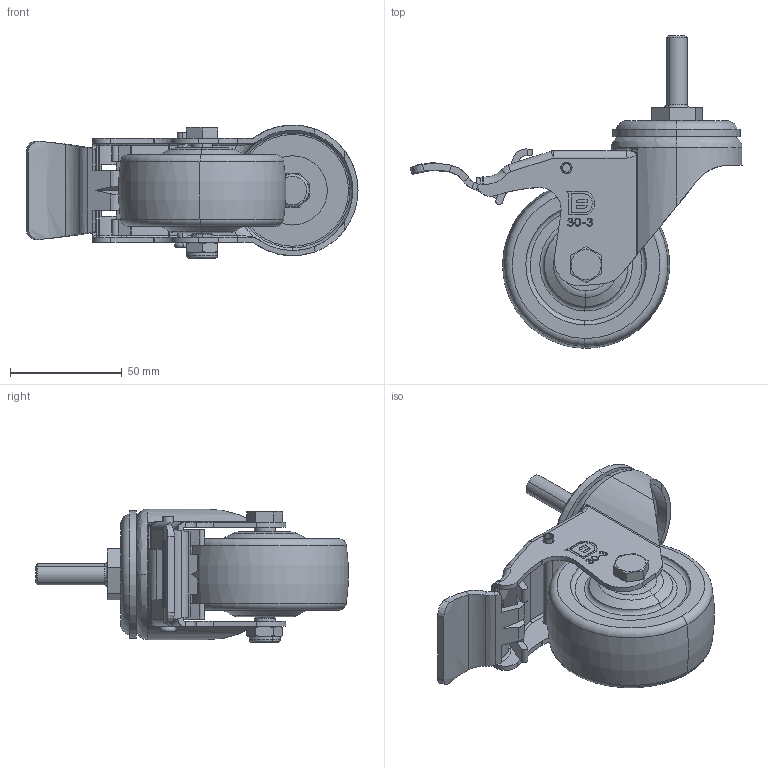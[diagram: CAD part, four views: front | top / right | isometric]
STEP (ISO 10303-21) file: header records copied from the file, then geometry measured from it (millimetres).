
FILE_DESCRIPTION (( 'STEP AP203' ), '1' );
FILE_NAME ('4113003004105-展示用.STEP', '2024-11-06T01:41:45', ( '' ), ( '' ), 'SwSTEP 2.0', 'SolidWorks 2019', '' );
FILE_SCHEMA (( 'CONFIG_CONTROL_DESIGN' ));
Length unit declared in the file: millimetre
Products named in the file (10): 412410300004 扁輪-內硬外軟(高級) 3''''(ψ7530.5-10孔-中寬38)黑 20051026; 4202095401 4''''.5''''儀器.高級活動用車心 20190430; 213014030003 30系列鐵雙煞腳-電鍍-展示用; 4502090003 尼龍螺帽 20190422; 鐵雙煞踏板0313-2.5-110; 4201044901-3''''4''''5''''儀器輪用煞車空心鉚釘(4.8x49.5L) 20210708; 245042402001 墊圈-電鍍 23x15.2x2.3t_084048; 4113003004105-展示用; 213015050002 30系列上珠碗-沖壓-展示用; 4201093202 3''''.4''''.5''''高級和4.5''''儀器架用牙心 3 8''''-16牙x32L(NEW) 20171013_133519
Assembly tree (9 placements, depth 2):
  4113003004105-展示用
    213015050002 30系列上珠碗-沖壓-展示用
    213014030003 30系列鐵雙煞腳-電鍍-展示用
    4202095401 4''''.5''''儀器.高級活動用車心 20190430
    4502090003 尼龍螺帽 20190422
    鐵雙煞踏板0313-2.5-110
    4201044901-3''''4''''5''''儀器輪用煞車空心鉚釘(4.8x49.5L) 20210708
    4201093202 3''''.4''''.5''''高級和4.5''''儀器架用牙心 3 8''''-16牙x32L(NEW) 20171013_133519
    245042402001 墊圈-電鍍 23x15.2x2.3t_084048
    412410300004 扁輪-內硬外軟(高級) 3''''(ψ7530.5-10孔-中寬38)黑 20051026
Bounding box: 148.57 x 139.88 x 59.95 mm (x, y, z)
Volume: 202545.3 mm3; surface area: 66730.4 mm2
Topology: 10 solids, 10 shells, 524 faces, 1341 edges, 855 vertices
Faces by surface type: plane 168, cylinder 145, bspline 130, torus 46, cone 26, sphere 9
Entity records: 24070 total; most frequent: CARTESIAN_POINT 11222, ORIENTED_EDGE 2670, DIRECTION 2148, EDGE_CURVE 1335, VERTEX_POINT 854, AXIS2_PLACEMENT_3D 811, EDGE_LOOP 569, VECTOR 526
